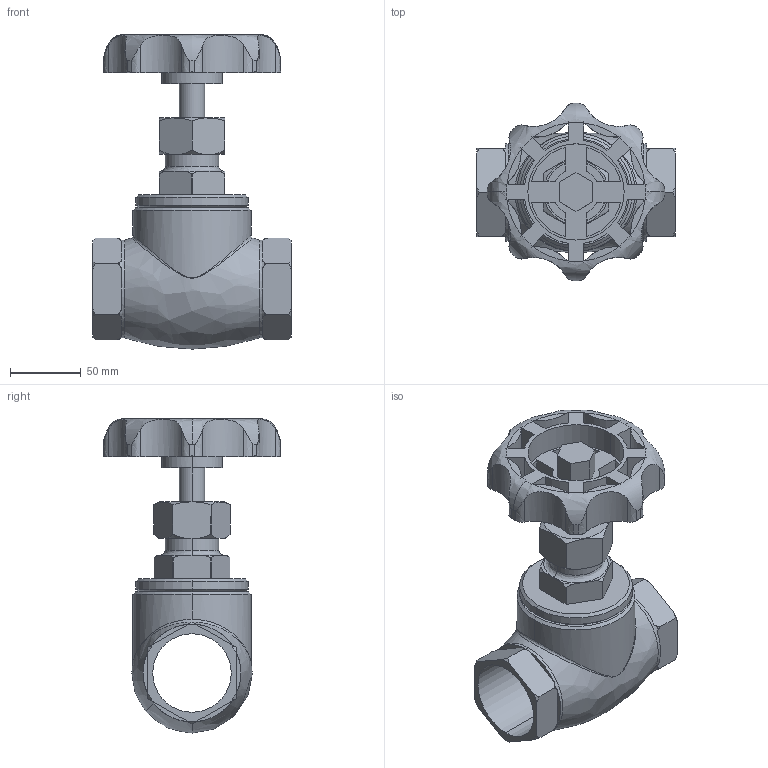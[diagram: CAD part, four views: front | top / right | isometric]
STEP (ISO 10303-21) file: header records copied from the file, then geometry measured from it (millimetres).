
FILE_DESCRIPTION( (''), '2;1');
FILE_NAME ('PC1027.9568.3D GLV-10 50A_15626.stp','2025-07-28T11:31:11',(''),(''),'spGate 19.8.4 (****-****-****-****)','','');
FILE_SCHEMA (('AUTOMOTIVE_DESIGN'));
Length unit declared in the file: millimetre
Bounding box: 140 x 124.99 x 221.34 mm (x, y, z)
Volume: 717315.1 mm3; surface area: 129412.5 mm2
Topology: 1 solids, 1 shells, 236 faces, 684 edges, 448 vertices
Faces by surface type: plane 90, bspline 86, cylinder 60
Entity records: 16074 total; most frequent: CARTESIAN_POINT 5341, ORIENTED_EDGE 1368, DIRECTION 962, COLOUR_RGB 921, PRESENTATION_STYLE_ASSIGNMENT 921, STYLED_ITEM 921, EDGE_CURVE 684, DRAUGHTING_PRE_DEFINED_CURVE_FONT 684
